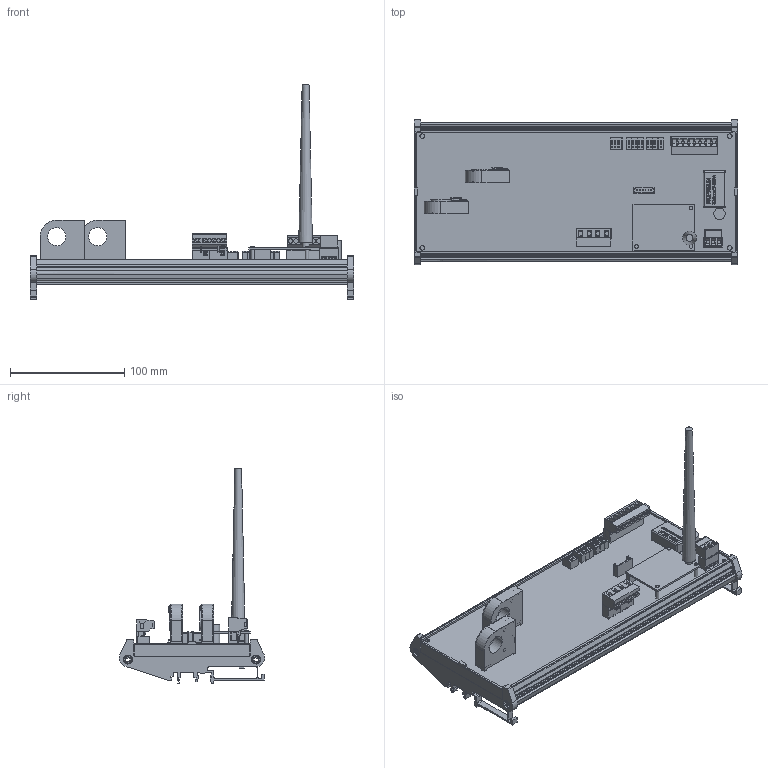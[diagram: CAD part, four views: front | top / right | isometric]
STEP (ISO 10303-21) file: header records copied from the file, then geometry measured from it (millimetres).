
FILE_DESCRIPTION(('FreeCAD Model'),'2;1');
FILE_NAME('C:/3D Files/Stringhe/ST0HS/ST0HS02x00 WR/ST0HS02x00 WR.step', '2022-06-01T16:43:32',('Author'),(''), 'Open CASCADE STEP processor 7.3','FreeCAD','Unknown');
FILE_SCHEMA(('AUTOMOTIVE_DESIGN { 1 0 10303 214 1 1 1 1 }'));
Length unit declared in the file: millimetre
Products named in the file (27): ST0HS02x00_WR; AmpModu_6P_M; DipSwitch4; WRB2403ZP-6WR003; ELNA_470_uF_35_V; Mstb_03P_F; Mstb_03Pc_M; SH04-7,62; PV02-7,62-V-Pa; PV02-7,62-V-Pb; Mstb_8P_F; Mstb_8Pc_M; Hall_Sensor_45_A_CH_1; Hall_Sensor_45_A_CH_2; Spacer-001; Spacer-002; Spacer-003; Strip_7x1; Antenna; E108_Module; Base_Antenna; Stampato_279,7_x_108; Profilo_284x128; DipSwitch005; DipSwitch006; DipSwitch007; DipSwitch008
Assembly tree (26 placements, depth 2):
  ST0HS02x00_WR
    AmpModu_6P_M
    DipSwitch4
    WRB2403ZP-6WR003
    ELNA_470_uF_35_V
    Mstb_03P_F
    Mstb_03Pc_M
    SH04-7,62
    PV02-7,62-V-Pa
    PV02-7,62-V-Pb
    Mstb_8P_F
    Mstb_8Pc_M
    Hall_Sensor_45_A_CH_1
    Hall_Sensor_45_A_CH_2
    Spacer-001
    Spacer-002
    Spacer-003
    Strip_7x1
    Antenna
    E108_Module
    Base_Antenna
    Stampato_279,7_x_108
    Profilo_284x128
    DipSwitch005
    DipSwitch006
    DipSwitch007
    DipSwitch008
Bounding box: 284 x 127.59 x 188.79 mm (x, y, z)
Volume: 209941.8 mm3; surface area: 258799.2 mm2
Topology: 34 solids, 55 shells, 3086 faces, 8964 edges, 7784 vertices
Faces by surface type: plane 2311, cylinder 461, bspline 185, torus 56, cone 42, sphere 28, extrusion 3
Full cylindrical faces by diameter (mm): 0.75 x52, 1 x10, 1.5 x8, 1.6 x7, 3.1 x3, 3.8 x4, 4 x19, 4.3 x2, 6 x1, 7.9 x4, 9.202 x2, 10 x1
Entity records: 237548 total; most frequent: CARTESIAN_POINT 51941, DIRECTION 28813, VECTOR 19738, LINE 19735, ORIENTED_EDGE 16332, PCURVE 16332, DEFINITIONAL_REPRESENTATION 16332, EDGE_CURVE 8372
